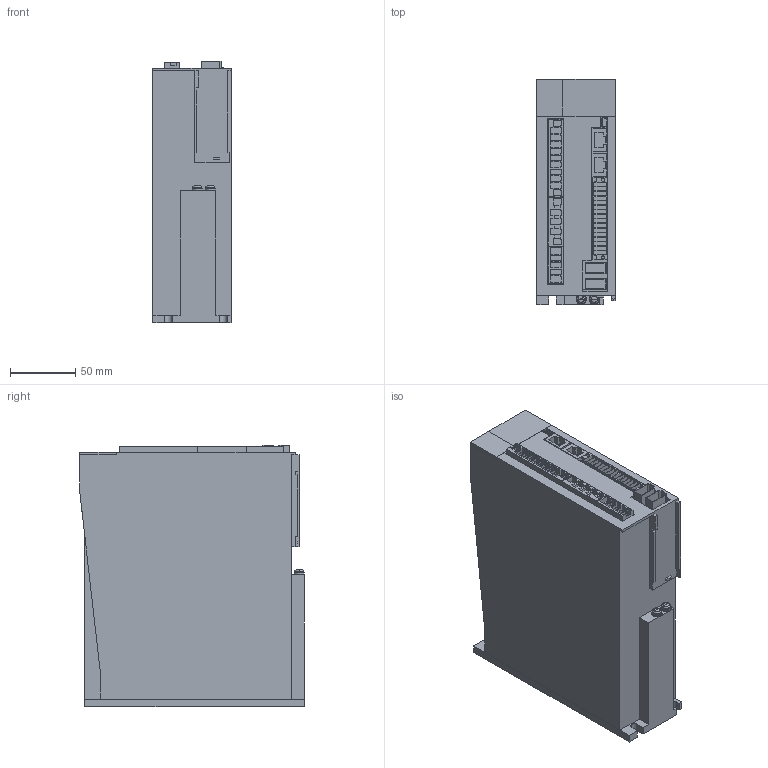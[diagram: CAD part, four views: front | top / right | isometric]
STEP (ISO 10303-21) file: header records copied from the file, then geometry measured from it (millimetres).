
FILE_DESCRIPTION((''),'2;1');
FILE_NAME('MR-J5-60G4-HS_ASM','2024-09-27T13:51:38',('LS98522'),(''),'CREO PARAMETRIC BY PTC INC, 2022281','CREO PARAMETRIC BY PTC INC, 2022281','');
FILE_SCHEMA(('CONFIG_CONTROL_DESIGN'));
Length unit declared in the file: millimetre
Products named in the file (15): J5-60_4-CHASSIS; J5-60G4-HS-CASE; J5-LENZ; J5-70-LENZ; J5-CN1A; J5-CN1B; J5-CN2; J5D-CN3; J5-CN5; J5-CN7; J5-60-350_4-CNP1; J5-60-350_4-CNP2; J5-60-350_4-CNP3; SW-PW-P-NA-M4X12-PE; MR-J5-60G4-HS_ASM
Assembly tree (16 placements, depth 2):
  MR-J5-60G4-HS_ASM
    J5-60_4-CHASSIS
    J5-60G4-HS-CASE
    J5-LENZ
    J5-70-LENZ
    J5-CN1A
    J5-CN1B
    J5-CN2  x2
    J5D-CN3
    J5-CN5
    J5-CN7
    J5-60-350_4-CNP1
    J5-60-350_4-CNP2
    J5-60-350_4-CNP3
    SW-PW-P-NA-M4X12-PE  x2
Bounding box: 60 x 172 x 200.35 mm (x, y, z)
Volume: 252225.7 mm3; surface area: 241621.7 mm2
Topology: 16 solids, 16 shells, 634 faces, 1705 edges, 1131 vertices
Faces by surface type: plane 562, cylinder 60, cone 4, torus 4, sphere 4
Entity records: 18925 total; most frequent: CARTESIAN_POINT 3333, ORIENTED_EDGE 3246, DIRECTION 3001, EDGE_CURVE 1623, VECTOR 1505, LINE 1505, VERTEX_POINT 1080, AXIS2_PLACEMENT_3D 748
